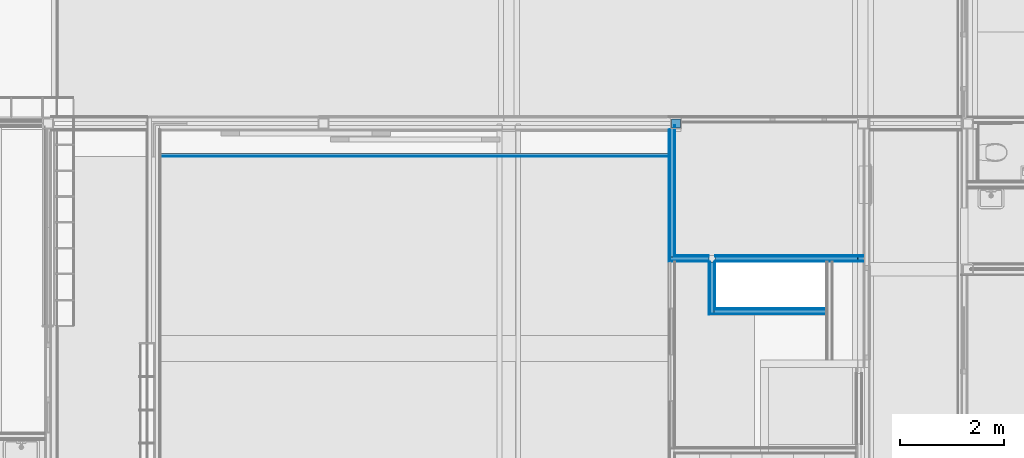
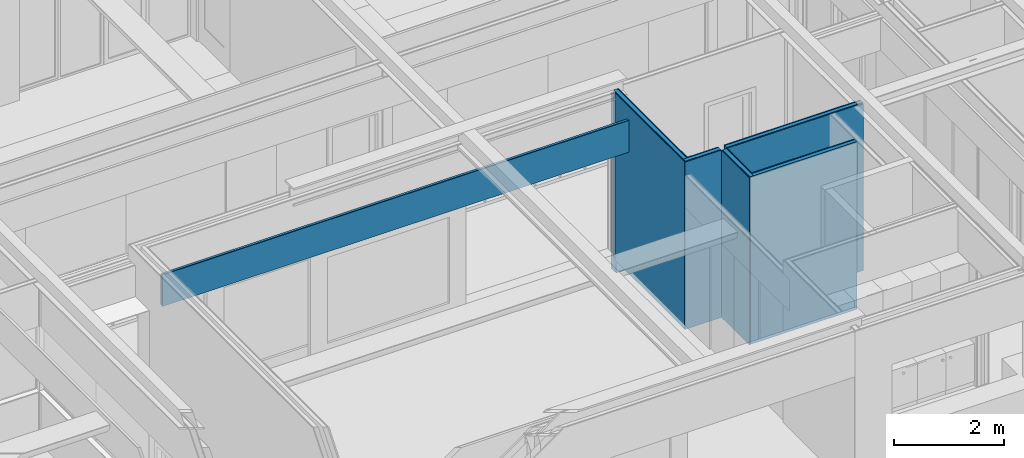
# One storey, part 87 of 165: 22 building element parts, 6 elements without a shape of their own.
"""IFC2X3 building model written with IfcOpenShell, lengths in millimetres."""

from ifc_helpers import new_model, entity, si_unit, converted_unit, derived_unit, money_unit, direction, frame, origin_with_axes, place, context, subcontext, project, spatial, faceted_brep, material, type_object, element, aggregate, save


model = new_model("IFC2X3")

# Units and contexts
model_context = context("Model", 3, precision=0.01, world=origin_with_axes(), true_north=direction((0.0, 1.0)))
body_context = subcontext(model_context, "Body", "Model", "MODEL_VIEW")
ifc_project = project(units=[si_unit("LENGTHUNIT", "METRE", prefix="MILLI"), si_unit("AREAUNIT", "SQUARE_METRE"), si_unit("VOLUMEUNIT", "CUBIC_METRE"), converted_unit("PLANEANGLEUNIT", "DEGREE", entity("IfcPlaneAngleMeasure", 0.0174532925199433), si_unit("PLANEANGLEUNIT", "RADIAN"), dimensions=[0, 0, 0, 0, 0, 0, 0]), money_unit("EUR"), converted_unit("TIMEUNIT", "Year", entity("IfcTimeMeasure", 31556926.0), si_unit("TIMEUNIT", "SECOND"), dimensions=[0, 0, 1, 0, 0, 0, 0]), si_unit("MASSUNIT", "GRAM", prefix="KILO"), si_unit("THERMODYNAMICTEMPERATUREUNIT", "DEGREE_CELSIUS"), si_unit("LUMINOUSINTENSITYUNIT", "LUMEN"), si_unit("ENERGYUNIT", "JOULE", prefix="MEGA"), derived_unit("THERMALCONDUCTANCEUNIT", [(si_unit("POWERUNIT", "WATT"), 1), (si_unit("LENGTHUNIT", "METRE"), -1), (si_unit("THERMODYNAMICTEMPERATUREUNIT", "KELVIN"), -1)]), derived_unit("SPECIFICHEATCAPACITYUNIT", [(si_unit("ENERGYUNIT", "JOULE"), 1), (si_unit("MASSUNIT", "GRAM", prefix="KILO"), -1), (si_unit("THERMODYNAMICTEMPERATUREUNIT", "KELVIN"), -1)]), derived_unit("MASSDENSITYUNIT", [(si_unit("MASSUNIT", "GRAM", prefix="KILO"), 1), (si_unit("VOLUMEUNIT", "CUBIC_METRE"), -1)])], contexts=[model_context])

# Site, building, storey
site_placement = place(None, origin_with_axes())
site = spatial("IfcSite", under=ifc_project, at=site_placement, Name="Site", CompositionType="ELEMENT")
building_placement = place(site_placement, origin_with_axes())
building = spatial("IfcBuilding", under=site, at=building_placement, Name="Naam gebouw", CompositionType="ELEMENT")
storey_placement = place(building_placement, origin_with_axes())
storey = spatial("IfcBuildingStorey", under=building, at=storey_placement, Name="Begane grond", CompositionType="ELEMENT", Elevation=0.0)

# Column, building element part
column_type = type_object("IfcColumnType", Name="200X200X10 200 x 200", PredefinedType="COLUMN")
column_placement = place(storey_placement, frame((20909.99793409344, 19449.99981118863, -425.0000000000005), z_axis=(0.0, 0.0, 1.0), x_axis=(1.0, 0.0, 0.0)))
column = element("IfcColumn", 1, at=column_placement, inside=storey, type_object=column_type, Name="28_Kolom-x", ObjectType="COLUMN")
ifc_material_1 = material(Name="Beton gewapend C")
building_element_part_1_placement = place(column_placement, origin_with_axes())
building_element_part_1 = element("IfcBuildingElementPart", 2, at=building_element_part_1_placement, material=ifc_material_1, Name="Beton gewapend C", context=body_context, shape_type="Brep", body=[
    faceted_brep([(-89.99999999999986, 89.99999999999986, 3889.999999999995), (89.99999999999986, 89.99999999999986, 3889.999999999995), (89.99999999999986, 89.99999999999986, 0.0), (-89.99999999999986, 89.99999999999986, 0.0), (89.99999999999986, -89.99999999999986, 3889.999999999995), (-89.99999999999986, -89.99999999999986, 3889.999999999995), (89.99999999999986, -89.99999999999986, 0.0), (-89.99999999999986, -89.99999999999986, 0.0)], [[[0, 1, 2, 3]], [[4, 1, 0, 5]], [[1, 4, 6, 2]], [[6, 7, 3, 2]], [[5, 0, 3, 7]], [[4, 5, 7, 6]]]),
])
aggregate(column, [building_element_part_1])

# Proxy, building element parts
building_element_proxy_type_1 = type_object("IfcBuildingElementProxyType", Name="22 Metal stud 125 gips 125", PredefinedType="NOTDEFINED")
proxy_1_placement = place(storey_placement, frame((21539.9990399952, 15774.99790795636, -100.0), z_axis=(0.0, 0.0, 1.0), x_axis=(1.512553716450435e-07, 0.9999999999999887, 0.0)))
proxy_1 = element("IfcBuildingElementProxy", 3, at=proxy_1_placement, inside=storey, type_object=building_element_proxy_type_1, Name="_Wand-x")
ifc_material_2 = material(Name="Gipsplaat")
building_element_part_2_placement = place(proxy_1_placement, origin_with_axes())
building_element_part_2 = element("IfcBuildingElementPart", 4, at=building_element_part_2_placement, material=ifc_material_2, Name="Gipsplaat", context=body_context, shape_type="Brep", body=[
    faceted_brep([(1015.128686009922, -12.49999999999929, 3700.0), (1015.128686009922, 0.0, 3700.0), (0.0, 0.0, 3700.0), (0.0, -12.49999999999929, 3700.0), (1015.128686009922, -12.49999999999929, 0.0), (1015.128686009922, 0.0, 0.0), (0.0, 0.0, 0.0), (0.0, -12.49999999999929, 0.0)], [[[0, 1, 2, 3]], [[0, 4, 5, 1]], [[1, 5, 6, 2]], [[3, 2, 6, 7]], [[4, 0, 3, 7]], [[5, 4, 7, 6]]]),
])
building_element_part_3_placement = place(proxy_1_placement, origin_with_axes())
building_element_part_3 = element("IfcBuildingElementPart", 5, at=building_element_part_3_placement, material=ifc_material_2, Name="Gipsplaat", context=body_context, shape_type="Brep", body=[
    faceted_brep([(1015.128686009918, -24.99999999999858, 3700.0), (1015.128686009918, -12.49999999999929, 3700.0), (12.49999999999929, -12.50000000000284, 3700.0), (12.49999999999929, -25.00000000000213, 3700.0), (1015.128686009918, -25.00000000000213, 0.0), (1015.128686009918, -12.49999999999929, 0.0), (12.49999999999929, -12.50000000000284, 0.0), (12.49999999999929, -25.00000000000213, 0.0)], [[[0, 1, 2, 3]], [[0, 4, 5, 1]], [[1, 5, 6, 2]], [[3, 2, 6, 7]], [[4, 0, 3, 7]], [[5, 4, 7, 6]]]),
])
ifc_material_3 = material(Name="ALG - LICHTE SCHEIDINGSWAND")
building_element_part_4_placement = place(proxy_1_placement, origin_with_axes())
building_element_part_4 = element("IfcBuildingElementPart", 6, at=building_element_part_4_placement, material=ifc_material_3, Name="ALG - LICHTE SCHEIDINGSWAND", context=body_context, shape_type="Brep", body=[
    faceted_brep([(1015.128686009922, -100.0000000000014, 3700.0), (1015.128686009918, -24.99999999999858, 3700.0), (25.00000000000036, -24.99999999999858, 3700.0), (24.99999999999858, -100.0000000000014, 3700.0), (1015.128686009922, -100.0000000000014, 0.0), (1015.128686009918, -25.00000000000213, 0.0), (25.00000000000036, -24.99999999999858, 0.0), (24.99999999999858, -100.0000000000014, 0.0)], [[[0, 1, 2, 3]], [[0, 4, 5, 1]], [[1, 5, 6, 2]], [[3, 2, 6, 7]], [[4, 0, 3, 7]], [[5, 4, 7, 6]]]),
])
building_element_part_5_placement = place(proxy_1_placement, origin_with_axes())
building_element_part_5 = element("IfcBuildingElementPart", 7, at=building_element_part_5_placement, material=ifc_material_2, Name="Gipsplaat", context=body_context, shape_type="Brep", body=[
    faceted_brep([(1015.128686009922, -112.5000000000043, 3700.0), (1015.128686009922, -100.0000000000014, 3700.0), (100.0000000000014, -100.0000000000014, 3700.0), (99.99999999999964, -112.5000000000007, 3700.0), (1015.128686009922, -112.5000000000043, 0.0), (1015.128686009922, -100.0000000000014, 0.0), (100.0000000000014, -100.0000000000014, 0.0), (99.99999999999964, -112.5000000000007, 0.0)], [[[0, 1, 2, 3]], [[0, 4, 5, 1]], [[1, 5, 6, 2]], [[3, 2, 6, 7]], [[4, 0, 3, 7]], [[5, 4, 7, 6]]]),
])
building_element_part_6_placement = place(proxy_1_placement, origin_with_axes())
building_element_part_6 = element("IfcBuildingElementPart", 8, at=building_element_part_6_placement, material=ifc_material_2, Name="Gipsplaat", context=body_context, shape_type="Brep", body=[
    faceted_brep([(1015.128686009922, -125.0000000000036, 3700.0), (1015.128686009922, -112.5000000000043, 3700.0), (112.4999999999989, -112.5000000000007, 3700.0), (112.5000000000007, -125.0000000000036, 3700.0), (1015.128686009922, -125.0000000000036, 0.0), (1015.128686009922, -112.5000000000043, 0.0), (112.4999999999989, -112.5000000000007, 0.0), (112.5000000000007, -125.0000000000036, 0.0)], [[[0, 1, 2, 3]], [[0, 4, 5, 1]], [[1, 5, 6, 2]], [[3, 2, 6, 7]], [[4, 0, 3, 7]], [[5, 4, 7, 6]]]),
])
aggregate(proxy_1, [building_element_part_2, building_element_part_3, building_element_part_4, building_element_part_5, building_element_part_6])

proxy_2_placement = place(storey_placement, frame((20774.99910155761, 16789.99778166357, -100.0), z_axis=(0.0, 0.0, 1.0), x_axis=(1.0, 0.0, 0.0)))
proxy_2 = element("IfcBuildingElementProxy", 9, at=proxy_2_placement, inside=storey, type_object=building_element_proxy_type_1, Name="_Wand-x")
building_element_part_7_placement = place(proxy_2_placement, origin_with_axes())
building_element_part_7 = element("IfcBuildingElementPart", 10, at=building_element_part_7_placement, material=ifc_material_2, Name="Gipsplaat", context=body_context, shape_type="Brep", body=[
    faceted_brep([(3524.999938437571, 125.0, 3695.000029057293), (3524.999938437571, 125.0, 3680.000029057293), (3734.999938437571, 125.0, 3680.000029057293), (3734.999938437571, 125.0, 0.0), (890.0001108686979, 125.0, 0.0), (890.0001108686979, 125.0, 3700.0), (3623.999938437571, 125.0, 3700.0), (3623.999938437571, 125.0, 3695.000029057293), (3524.999938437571, 112.5000000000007, 3695.000029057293), (3524.999938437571, 112.5000000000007, 3680.000029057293), (3734.999938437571, 112.5000000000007, 3680.000029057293), (3734.999938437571, 112.5000000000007, 0.0), (890.000108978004, 112.5000000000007, 0.0), (890.000108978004, 112.5000000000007, 3700.0), (3623.999938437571, 112.5000000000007, 3700.0), (3623.999938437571, 112.5000000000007, 3695.000029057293)], [[[0, 1, 2, 3, 4, 5, 6, 7]], [[1, 0, 8, 9]], [[10, 2, 1, 9]], [[2, 10, 11, 3]], [[12, 4, 3, 11]], [[13, 5, 4, 12]], [[14, 6, 5, 13]], [[7, 6, 14, 15]], [[0, 7, 15, 8]], [[15, 14, 13, 12, 11, 10, 9, 8]]]),
    faceted_brep([(3734.999938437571, 112.5000000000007, 3695.000029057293), (3734.999938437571, 125.0, 3695.000029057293), (3734.999938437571, 125.0, 3700.0), (3734.999938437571, 112.5000000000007, 3700.0), (3629.999938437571, 125.0, 3695.000029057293), (3629.999938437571, 112.5000000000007, 3695.000029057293), (3629.999938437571, 125.0, 3700.0), (3629.999938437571, 112.5000000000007, 3700.0)], [[[0, 1, 2, 3]], [[4, 1, 0, 5]], [[4, 6, 2, 1]], [[6, 7, 3, 2]], [[5, 0, 3, 7]], [[7, 6, 4, 5]]]),
    faceted_brep([(112.4999429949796, 125.0000000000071, 2700.0), (112.4999429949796, 125.0000000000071, 3400.0), (112.4999429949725, 125.0, 3700.0), (765.0001108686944, 125.0, 3700.0), (765.0001108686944, 125.0, 0.0), (112.499942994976, 125.0, 0.0), (112.4999429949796, 125.0000000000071, 100.0), (112.4999486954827, 112.5000000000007, 3400.0), (112.4999486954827, 112.5000000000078, 2700.0), (112.4999486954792, 112.4999999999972, 3700.0), (765.0001089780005, 112.5000000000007, 3700.0), (765.0001089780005, 112.5000000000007, 0.0), (112.4999486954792, 112.5000000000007, 0.0), (112.4999486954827, 112.4999999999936, 100.0)], [[[0, 1, 2, 3, 4, 5, 6]], [[7, 1, 0, 8]], [[1, 7, 9, 2]], [[2, 9, 10, 3]], [[4, 3, 10, 11]], [[12, 5, 4, 11]], [[13, 6, 5, 12]], [[8, 0, 6, 13]], [[7, 8, 13, 12, 11, 10, 9]]]),
])
building_element_part_8_placement = place(proxy_2_placement, origin_with_axes())
building_element_part_8 = element("IfcBuildingElementPart", 11, at=building_element_part_8_placement, material=ifc_material_2, Name="Gipsplaat", context=body_context, shape_type="Brep", body=[
    faceted_brep([(3524.999938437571, 24.99999999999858, 3695.000029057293), (3524.999938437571, 24.99999999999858, 3680.000029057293), (3734.999938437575, 25.00000000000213, 3680.000029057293), (3734.999938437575, 24.99999999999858, 0.0), (890.0000957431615, 24.99999999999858, 0.0), (890.0000957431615, 24.99999999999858, 3700.0), (3623.999938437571, 25.00000000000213, 3700.0), (3623.999938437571, 24.99999999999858, 3695.000029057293), (3524.999938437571, 12.49999999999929, 3695.000029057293), (3524.999938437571, 12.49999999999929, 3680.000029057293), (3734.999938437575, 12.49999999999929, 3680.000029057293), (3734.999938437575, 12.49999999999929, 0.0), (890.0000938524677, 12.49999999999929, 0.0), (890.0000938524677, 12.49999999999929, 3700.0), (3623.999938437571, 12.49999999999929, 3700.0), (3623.999938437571, 12.49999999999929, 3695.000029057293)], [[[0, 1, 2, 3, 4, 5, 6, 7]], [[1, 0, 8, 9]], [[10, 2, 1, 9]], [[2, 10, 11, 3]], [[12, 4, 3, 11]], [[13, 5, 4, 12]], [[14, 6, 5, 13]], [[7, 6, 14, 15]], [[0, 7, 15, 8]], [[15, 14, 13, 12, 11, 10, 9, 8]]]),
    faceted_brep([(3734.999938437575, 12.49999999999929, 3695.000029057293), (3734.999938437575, 25.00000000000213, 3695.000029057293), (3734.999938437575, 25.00000000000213, 3700.0), (3734.999938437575, 12.49999999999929, 3700.0), (3629.999938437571, 24.99999999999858, 3695.000029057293), (3629.999938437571, 12.49999999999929, 3695.000029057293), (3629.999938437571, 25.00000000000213, 3700.0), (3629.999938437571, 12.49999999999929, 3700.0)], [[[0, 1, 2, 3]], [[4, 1, 0, 5]], [[4, 6, 2, 1]], [[6, 7, 3, 2]], [[5, 0, 3, 7]], [[7, 6, 4, 5]]]),
    faceted_brep([(12.49998859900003, 25.00000000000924, 2700.0), (12.49998859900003, 25.00000000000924, 3400.0), (12.49998859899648, 24.99999999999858, 3700.0), (765.000095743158, 24.99999999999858, 3700.0), (765.000095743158, 24.99999999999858, 0.0), (12.49998859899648, 24.99999999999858, 0.0), (12.49998859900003, 25.00000000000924, 100.0), (12.49999429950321, 12.49999999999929, 3400.0), (12.49999429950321, 12.50000000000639, 2700.0), (12.49999429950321, 12.49999999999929, 3700.0), (765.0000938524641, 12.49999999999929, 3700.0), (765.0000938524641, 12.49999999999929, 0.0), (12.49999429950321, 12.49999999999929, 0.0), (12.49999429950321, 12.49999999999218, 100.0)], [[[0, 1, 2, 3, 4, 5, 6]], [[7, 1, 0, 8]], [[1, 7, 9, 2]], [[2, 9, 10, 3]], [[4, 3, 10, 11]], [[12, 5, 4, 11]], [[13, 6, 5, 12]], [[8, 0, 6, 13]], [[7, 8, 13, 12, 11, 10, 9]]]),
])
building_element_part_9_placement = place(proxy_2_placement, origin_with_axes())
building_element_part_9 = element("IfcBuildingElementPart", 12, at=building_element_part_9_placement, material=ifc_material_3, Name="ALG - LICHTE SCHEIDINGSWAND", context=body_context, shape_type="Brep", body=[
    faceted_brep([(3524.999938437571, 100.0000000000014, 3695.000029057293), (3524.999938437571, 100.0000000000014, 3680.000029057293), (3734.999938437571, 100.0000000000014, 3680.000029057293), (3734.999938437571, 100.0000000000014, 0.0), (890.0001070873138, 100.0000000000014, 0.0), (890.0001070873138, 100.0000000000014, 3700.0), (3623.999938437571, 100.0000000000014, 3700.0), (3623.999938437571, 100.0000000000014, 3695.000029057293), (3524.999938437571, 24.99999999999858, 3695.000029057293), (3524.999938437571, 24.99999999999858, 3680.000029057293), (3734.999938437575, 25.00000000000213, 3680.000029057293), (3734.999938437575, 24.99999999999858, 0.0), (890.0000957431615, 24.99999999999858, 0.0), (890.0000957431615, 24.99999999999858, 3700.0), (3623.999938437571, 25.00000000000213, 3700.0), (3623.999938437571, 24.99999999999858, 3695.000029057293)], [[[0, 1, 2, 3, 4, 5, 6, 7]], [[1, 0, 8, 9]], [[10, 2, 1, 9]], [[2, 10, 11, 3]], [[12, 4, 3, 11]], [[13, 5, 4, 12]], [[14, 6, 5, 13]], [[7, 6, 14, 15]], [[0, 7, 15, 8]], [[15, 14, 13, 12, 11, 10, 9, 8]]]),
    faceted_brep([(3734.999938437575, 25.00000000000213, 3695.000029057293), (3734.999938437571, 100.0000000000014, 3695.000029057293), (3734.999938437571, 100.0000000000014, 3700.0), (3734.999938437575, 25.00000000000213, 3700.0), (3629.999938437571, 100.0000000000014, 3695.000029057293), (3629.999938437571, 24.99999999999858, 3695.000029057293), (3629.999938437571, 100.0000000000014, 3700.0), (3629.999938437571, 25.00000000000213, 3700.0)], [[[0, 1, 2, 3]], [[4, 1, 0, 5]], [[4, 6, 2, 1]], [[6, 7, 3, 2]], [[5, 0, 3, 7]], [[7, 6, 4, 5]]]),
    faceted_brep([(24.99995439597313, 100.0000000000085, 2700.0), (24.99995439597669, 100.0000000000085, 3400.0), (24.99995439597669, 100.0000000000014, 3700.0), (765.0001070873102, 100.0000000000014, 3700.0), (765.0001070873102, 100.0000000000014, 0.0), (24.99995439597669, 100.0000000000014, 0.0), (24.99995439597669, 100.0000000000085, 100.0), (24.99998859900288, 25.00000000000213, 3400.0), (24.99998859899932, 25.00000000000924, 2700.0), (24.99998859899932, 24.99999999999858, 3700.0), (765.000095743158, 24.99999999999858, 3700.0), (765.000095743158, 24.99999999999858, 0.0), (24.99998859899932, 24.99999999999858, 0.0), (24.99998859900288, 24.99999999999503, 100.0)], [[[0, 1, 2, 3, 4, 5, 6]], [[7, 1, 0, 8]], [[1, 7, 9, 2]], [[2, 9, 10, 3]], [[4, 3, 10, 11]], [[12, 5, 4, 11]], [[13, 6, 5, 12]], [[8, 0, 6, 13]], [[7, 8, 13, 12, 11, 10, 9]]]),
])
building_element_part_10_placement = place(proxy_2_placement, origin_with_axes())
building_element_part_10 = element("IfcBuildingElementPart", 13, at=building_element_part_10_placement, material=ifc_material_2, Name="Gipsplaat", context=body_context, shape_type="Brep", body=[
    faceted_brep([(3524.999938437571, 12.49999999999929, 3695.000029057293), (3524.999938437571, 12.49999999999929, 3680.000029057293), (3734.999938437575, 12.49999999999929, 3680.000029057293), (3734.999938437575, 12.49999999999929, 0.0), (890.0000938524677, 12.49999999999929, 0.0), (890.0000938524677, 12.49999999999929, 3700.0), (3623.999938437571, 12.49999999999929, 3700.0), (3623.999938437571, 12.49999999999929, 3695.000029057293), (3524.999938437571, 0.0, 3695.000029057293), (3524.999938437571, 0.0, 3680.000029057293), (3734.999938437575, 0.0, 3680.000029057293), (3734.999938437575, 0.0, 0.0), (890.0000919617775, 0.0, 0.0), (890.0000919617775, 0.0, 3700.0), (3623.999938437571, 0.0, 3700.0), (3623.999938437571, 0.0, 3695.000029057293)], [[[0, 1, 2, 3, 4, 5, 6, 7]], [[1, 0, 8, 9]], [[10, 2, 1, 9]], [[2, 10, 11, 3]], [[12, 4, 3, 11]], [[13, 5, 4, 12]], [[14, 6, 5, 13]], [[7, 6, 14, 15]], [[0, 7, 15, 8]], [[15, 14, 13, 12, 11, 10, 9, 8]]]),
    faceted_brep([(3734.999938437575, 0.0, 3695.000029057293), (3734.999938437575, 12.49999999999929, 3695.000029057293), (3734.999938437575, 12.49999999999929, 3700.0), (3734.999938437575, 0.0, 3700.0), (3629.999938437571, 12.49999999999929, 3695.000029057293), (3629.999938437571, 0.0, 3695.000029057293), (3629.999938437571, 12.49999999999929, 3700.0), (3629.999938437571, 0.0, 3700.0)], [[[0, 1, 2, 3]], [[4, 1, 0, 5]], [[4, 6, 2, 1]], [[6, 7, 3, 2]], [[5, 0, 3, 7]], [[7, 6, 4, 5]]]),
    faceted_brep([(-2.060167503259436e-05, 12.49999999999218, 100.0), (-2.72026312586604e-06, 12.50000000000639, 2700.0), (-2.72026312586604e-06, 12.49999999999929, 3400.0), (-5.700499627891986e-06, 12.49999999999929, 3700.0), (765.0000938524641, 12.49999999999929, 3700.0), (765.0000938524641, 12.49999999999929, 0.0), (-5.700499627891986e-06, 12.49999999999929, 0.0), (-1.490117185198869e-05, 0.0, 100.0), (2.980240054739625e-06, 0.0, 2700.0), (2.980240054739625e-06, 0.0, 3400.0), (0.0, 0.0, 3700.0), (765.0000919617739, 0.0, 3700.0), (765.0000919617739, 0.0, 0.0), (0.0, 0.0, 0.0)], [[[0, 1, 2, 3, 4, 5, 6]], [[7, 8, 1, 0]], [[8, 9, 2, 1]], [[3, 2, 9, 10]], [[4, 3, 10, 11]], [[5, 4, 11, 12]], [[12, 13, 6, 5]], [[13, 7, 0, 6]], [[10, 9, 8, 7, 13, 12, 11]]]),
])
building_element_part_11_placement = place(proxy_2_placement, origin_with_axes())
building_element_part_11 = element("IfcBuildingElementPart", 14, at=building_element_part_11_placement, material=ifc_material_2, Name="Gipsplaat", context=body_context, shape_type="Brep", body=[
    faceted_brep([(3524.999938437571, 112.5000000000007, 3695.000029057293), (3524.999938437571, 112.5000000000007, 3680.000029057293), (3734.999938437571, 112.5000000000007, 3680.000029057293), (3734.999938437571, 112.5000000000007, 0.0), (890.000108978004, 112.5000000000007, 0.0), (890.000108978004, 112.5000000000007, 3700.0), (3623.999938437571, 112.5000000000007, 3700.0), (3623.999938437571, 112.5000000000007, 3695.000029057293), (3524.999938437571, 100.0000000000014, 3695.000029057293), (3524.999938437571, 100.0000000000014, 3680.000029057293), (3734.999938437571, 100.0000000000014, 3680.000029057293), (3734.999938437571, 100.0000000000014, 0.0), (890.0001070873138, 100.0000000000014, 0.0), (890.0001070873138, 100.0000000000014, 3700.0), (3623.999938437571, 100.0000000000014, 3700.0), (3623.999938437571, 100.0000000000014, 3695.000029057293)], [[[0, 1, 2, 3, 4, 5, 6, 7]], [[1, 0, 8, 9]], [[10, 2, 1, 9]], [[2, 10, 11, 3]], [[12, 4, 3, 11]], [[13, 5, 4, 12]], [[14, 6, 5, 13]], [[7, 6, 14, 15]], [[0, 7, 15, 8]], [[15, 14, 13, 12, 11, 10, 9, 8]]]),
    faceted_brep([(3734.999938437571, 100.0000000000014, 3695.000029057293), (3734.999938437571, 112.5000000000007, 3695.000029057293), (3734.999938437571, 112.5000000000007, 3700.0), (3734.999938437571, 100.0000000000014, 3700.0), (3629.999938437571, 112.5000000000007, 3695.000029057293), (3629.999938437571, 100.0000000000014, 3695.000029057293), (3629.999938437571, 112.5000000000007, 3700.0), (3629.999938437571, 100.0000000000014, 3700.0)], [[[0, 1, 2, 3]], [[4, 1, 0, 5]], [[4, 6, 2, 1]], [[6, 7, 3, 2]], [[5, 0, 3, 7]], [[7, 6, 4, 5]]]),
    faceted_brep([(99.9999486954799, 112.5000000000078, 2700.0), (99.9999486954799, 112.5000000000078, 3400.0), (99.99994869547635, 112.5000000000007, 3700.0), (765.0001089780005, 112.5000000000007, 3700.0), (765.0001089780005, 112.5000000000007, 0.0), (99.99994869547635, 112.5000000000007, 0.0), (99.9999486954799, 112.5000000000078, 100.0), (99.99995439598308, 100.0000000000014, 3400.0), (99.99995439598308, 100.0000000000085, 2700.0), (99.99995439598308, 100.0000000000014, 3700.0), (765.0001070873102, 100.0000000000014, 3700.0), (765.0001070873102, 100.0000000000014, 0.0), (99.99995439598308, 100.0000000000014, 0.0), (99.99995439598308, 99.99999999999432, 100.0)], [[[0, 1, 2, 3, 4, 5, 6]], [[7, 1, 0, 8]], [[1, 7, 9, 2]], [[2, 9, 10, 3]], [[4, 3, 10, 11]], [[12, 5, 4, 11]], [[13, 6, 5, 12]], [[8, 0, 6, 13]], [[7, 8, 13, 12, 11, 10, 9]]]),
])
aggregate(proxy_2, [building_element_part_7, building_element_part_8, building_element_part_9, building_element_part_10, building_element_part_11])

proxy_3_placement = place(storey_placement, frame((20774.99910155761, 16789.99778166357, -100.0), z_axis=(0.0, 0.0, 1.0), x_axis=(-4.560403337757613e-07, 0.9999999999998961, 0.0)))
proxy_3 = element("IfcBuildingElementProxy", 15, at=proxy_3_placement, inside=storey, type_object=building_element_proxy_type_1, Name="_Wand-x")
building_element_part_12_placement = place(proxy_3_placement, origin_with_axes())
building_element_part_12 = element("IfcBuildingElementPart", 16, at=building_element_part_12_placement, material=ifc_material_2, Name="Gipsplaat", context=body_context, shape_type="Brep", body=[
    faceted_brep([(2506.002023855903, -12.50000000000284, 3564.999999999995), (2506.002023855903, -12.50000000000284, 3604.999999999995), (2537.502605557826, -12.50000000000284, 3604.999999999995), (2537.502605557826, -12.50000000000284, 3700.0), (12.49999429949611, -12.50000000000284, 3700.0), (12.49999429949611, -12.50000000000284, 0.0), (2537.502605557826, -12.50000000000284, 0.0), (2537.502605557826, -12.50000000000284, 3564.999999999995), (2506.002029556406, -2.980236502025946e-06, 3564.999999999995), (2506.002029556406, -2.980236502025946e-06, 3604.999999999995), (2537.502611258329, 0.0, 3604.999999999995), (2537.502611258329, 0.0, 3700.0), (12.49999999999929, 0.0, 3700.0), (12.49999999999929, 0.0, 0.0), (2537.502611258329, 0.0, 0.0), (2537.502611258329, 0.0, 3564.999999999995)], [[[0, 1, 2, 3, 4, 5, 6, 7]], [[1, 0, 8, 9]], [[10, 2, 1, 9]], [[2, 10, 11, 3]], [[11, 12, 4, 3]], [[5, 4, 12, 13]], [[6, 5, 13, 14]], [[15, 7, 6, 14]], [[0, 7, 15, 8]], [[8, 15, 14, 13, 12, 11, 10, 9]]]),
])
building_element_part_13_placement = place(proxy_3_placement, origin_with_axes())
building_element_part_13 = element("IfcBuildingElementPart", 17, at=building_element_part_13_placement, material=ifc_material_2, Name="Gipsplaat", context=body_context, shape_type="Brep", body=[
    faceted_brep([(2506.0020181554, -24.99999999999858, 3564.999999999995), (2506.0020181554, -24.99999999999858, 3604.999999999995), (2550.002599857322, -25.00000000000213, 3604.999999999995), (2550.002599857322, -25.00000000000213, 3700.0), (24.99998859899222, -25.00000000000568, 3700.0), (24.99998859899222, -25.00000000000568, 0.0), (2550.002599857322, -25.00000000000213, 0.0), (2550.002599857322, -25.00000000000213, 3564.999999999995), (2506.002023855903, -12.50000000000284, 3564.999999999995), (2506.002023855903, -12.50000000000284, 3604.999999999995), (2550.002605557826, -12.50000000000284, 3604.999999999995), (2550.002605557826, -12.50000000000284, 3700.0), (24.99999429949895, -12.50000000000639, 3700.0), (24.99999429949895, -12.50000000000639, 0.0), (2550.002605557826, -12.50000000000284, 0.0), (2550.002605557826, -12.50000000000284, 3564.999999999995)], [[[0, 1, 2, 3, 4, 5, 6, 7]], [[1, 0, 8, 9]], [[10, 2, 1, 9]], [[2, 10, 11, 3]], [[11, 12, 4, 3]], [[5, 4, 12, 13]], [[6, 5, 13, 14]], [[15, 7, 6, 14]], [[0, 7, 15, 8]], [[8, 15, 14, 13, 12, 11, 10, 9]]]),
])
building_element_part_14_placement = place(proxy_3_placement, origin_with_axes())
building_element_part_14 = element("IfcBuildingElementPart", 18, at=building_element_part_14_placement, material=ifc_material_3, Name="ALG - LICHTE SCHEIDINGSWAND", context=body_context, shape_type="Brep", body=[
    faceted_brep([(2560.001983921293, -100.0000000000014, 0.0), (2560.001983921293, -100.0000000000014, 3564.999999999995), (2506.001983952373, -100.0000000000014, 3564.999999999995), (2506.001983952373, -100.0000000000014, 3604.999999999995), (2625.002565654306, -100.0000000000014, 3604.999999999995), (2625.002565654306, -100.0000000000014, 3700.0), (99.99995439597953, -100.0000000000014, 3700.0), (99.99995439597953, -100.0000000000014, 0.0), (2560.002013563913, -35.00000000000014, 3564.999999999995), (2560.002013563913, -35.00000000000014, 0.0), (2625.002595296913, -35.0000296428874, 3564.999999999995), (2625.002599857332, -25.00000000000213, 3564.999999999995), (2506.0020181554, -25.00000000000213, 3564.999999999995), (2506.0020181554, -25.00000000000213, 3604.999999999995), (2625.002599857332, -25.00000000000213, 3604.999999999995), (2625.002599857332, -25.00000000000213, 3700.0), (99.99998859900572, -25.00000000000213, 3700.0), (99.99998859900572, -25.00000000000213, 0.0), (2625.002599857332, -25.00000000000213, 0.0), (2625.002595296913, -35.0000296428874, 0.0)], [[[0, 1, 2, 3, 4, 5, 6, 7]], [[8, 1, 0, 9]], [[8, 10, 11, 12, 2, 1]], [[13, 3, 2, 12]], [[13, 14, 4, 3]], [[5, 4, 14, 15]], [[5, 15, 16, 6]], [[17, 7, 6, 16]], [[9, 0, 7, 17, 18, 19]], [[19, 10, 8, 9]], [[10, 19, 18, 11]], [[13, 12, 11, 18, 17, 16, 15, 14]]]),
])
building_element_part_15_placement = place(proxy_3_placement, origin_with_axes())
building_element_part_15 = element("IfcBuildingElementPart", 19, at=building_element_part_15_placement, material=ifc_material_2, Name="Gipsplaat", context=body_context, shape_type="Brep", body=[
    faceted_brep([(2560.001972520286, -125.0, 0.0), (2560.001972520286, -125.0, 3564.999999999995), (2506.001972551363, -125.0, 3564.999999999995), (2506.001972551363, -125.0, 3604.999999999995), (2625.002554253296, -125.0, 3604.999999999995), (2625.002554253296, -125.0, 3700.0), (124.9999429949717, -125.0, 3700.0), (124.9999429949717, -125.0, 0.0), (2560.00197822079, -112.5000000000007, 3564.999999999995), (2560.00197822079, -112.5000000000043, 0.0), (2506.00197825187, -112.5000000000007, 3564.999999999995), (2506.00197825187, -112.5000000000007, 3604.999999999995), (2625.002559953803, -112.5000000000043, 3604.999999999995), (2625.002559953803, -112.5000000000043, 3700.0), (124.9999486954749, -112.5000000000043, 3700.0), (124.9999486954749, -112.5000000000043, 0.0)], [[[0, 1, 2, 3, 4, 5, 6, 7]], [[8, 1, 0, 9]], [[1, 8, 10, 2]], [[11, 3, 2, 10]], [[11, 12, 4, 3]], [[5, 4, 12, 13]], [[5, 13, 14, 6]], [[15, 7, 6, 14]], [[9, 0, 7, 15]], [[8, 9, 15, 14, 13, 12, 11, 10]]]),
])
building_element_part_16_placement = place(proxy_3_placement, origin_with_axes())
building_element_part_16 = element("IfcBuildingElementPart", 20, at=building_element_part_16_placement, material=ifc_material_2, Name="Gipsplaat", context=body_context, shape_type="Brep", body=[
    faceted_brep([(2560.00197822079, -112.5000000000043, 0.0), (2560.00197822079, -112.5000000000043, 3564.999999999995), (2506.00197825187, -112.5000000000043, 3564.999999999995), (2506.00197825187, -112.5000000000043, 3604.999999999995), (2625.002559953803, -112.5000000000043, 3604.999999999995), (2625.002559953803, -112.5000000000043, 3700.0), (112.4999486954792, -112.5000000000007, 3700.0), (112.4999486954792, -112.5000000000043, 0.0), (2560.001983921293, -100.0000000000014, 3564.999999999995), (2560.001983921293, -100.0000000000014, 0.0), (2506.001983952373, -100.0000000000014, 3564.999999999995), (2506.001983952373, -100.0000000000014, 3604.999999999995), (2625.002565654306, -100.0000000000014, 3604.999999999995), (2625.002565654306, -100.0000000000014, 3700.0), (112.4999543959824, -100.0000000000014, 3700.0), (112.4999543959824, -100.0000000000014, 0.0)], [[[0, 1, 2, 3, 4, 5, 6, 7]], [[8, 1, 0, 9]], [[1, 8, 10, 2]], [[11, 3, 2, 10]], [[11, 12, 4, 3]], [[5, 4, 12, 13]], [[5, 13, 14, 6]], [[15, 7, 6, 14]], [[9, 0, 7, 15]], [[8, 9, 15, 14, 13, 12, 11, 10]]]),
])
aggregate(proxy_3, [building_element_part_12, building_element_part_13, building_element_part_14, building_element_part_15, building_element_part_16])

proxy_4_placement = place(storey_placement, frame((23924.99903999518, 15774.99754721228, -100.0), z_axis=(0.0, 0.0, 1.0), x_axis=(-0.9999999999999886, 1.512553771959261e-07, 0.0)))
proxy_4 = element("IfcBuildingElementProxy", 21, at=proxy_4_placement, inside=storey, type_object=building_element_proxy_type_1, Name="_Wand-x")
building_element_part_17_placement = place(proxy_4_placement, origin_with_axes())
building_element_part_17 = element("IfcBuildingElementPart", 22, at=building_element_part_17_placement, material=ifc_material_2, Name="Gipsplaat", context=body_context, shape_type="Brep", body=[
    faceted_brep([(2360.00000000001, -12.49999999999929, 3700.0), (125.0000018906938, -12.49999999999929, 3700.0), (125.0000037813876, -25.00000000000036, 3700.0), (2360.000000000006, -24.99999999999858, 3700.0), (2360.00000000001, -12.49999999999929, 0.0), (125.0000018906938, -12.49999999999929, 0.0), (125.0000037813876, -25.00000000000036, 0.0), (2360.000000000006, -24.99999999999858, 0.0)], [[[0, 1, 2, 3]], [[4, 5, 1, 0]], [[2, 1, 5, 6]], [[3, 2, 6, 7]], [[3, 7, 4, 0]], [[7, 6, 5, 4]]]),
])
building_element_part_18_placement = place(proxy_4_placement, origin_with_axes())
building_element_part_18 = element("IfcBuildingElementPart", 23, at=building_element_part_18_placement, material=ifc_material_3, Name="ALG - LICHTE SCHEIDINGSWAND", context=body_context, shape_type="Brep", body=[
    faceted_brep([(2285.000000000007, -24.99999999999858, 3700.0), (125.0000037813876, -25.00000000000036, 3700.0), (125.0000151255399, -99.99999999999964, 3700.0), (2285.000000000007, -99.99999999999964, 3700.0), (2285.000000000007, -24.99999999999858, 0.0), (125.0000037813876, -25.00000000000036, 0.0), (125.0000151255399, -100.0000000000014, 0.0), (2285.000000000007, -99.99999999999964, 0.0)], [[[0, 1, 2, 3]], [[4, 5, 1, 0]], [[2, 1, 5, 6]], [[3, 2, 6, 7]], [[3, 7, 4, 0]], [[7, 6, 5, 4]]]),
])
building_element_part_19_placement = place(proxy_4_placement, origin_with_axes())
building_element_part_19 = element("IfcBuildingElementPart", 24, at=building_element_part_19_placement, material=ifc_material_2, Name="Gipsplaat", context=body_context, shape_type="Brep", body=[
    faceted_brep([(2272.500000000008, -99.99999999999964, 3700.0), (125.0000151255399, -99.99999999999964, 3700.0), (125.0000170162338, -112.5000000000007, 3700.0), (2272.500000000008, -112.4999999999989, 3700.0), (2272.500000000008, -99.99999999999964, 0.0), (125.0000151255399, -100.0000000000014, 0.0), (125.0000170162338, -112.5000000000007, 0.0), (2272.500000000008, -112.4999999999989, 0.0)], [[[0, 1, 2, 3]], [[4, 5, 1, 0]], [[2, 1, 5, 6]], [[3, 2, 6, 7]], [[3, 7, 4, 0]], [[7, 6, 5, 4]]]),
])
building_element_part_20_placement = place(proxy_4_placement, origin_with_axes())
building_element_part_20 = element("IfcBuildingElementPart", 25, at=building_element_part_20_placement, material=ifc_material_2, Name="Gipsplaat", context=body_context, shape_type="Brep", body=[
    faceted_brep([(2260.000000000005, -112.4999999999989, 3700.0), (125.0000170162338, -112.5000000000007, 3700.0), (125.000018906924, -125.0, 3700.0), (2260.000000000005, -125.0, 3700.0), (2260.000000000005, -112.4999999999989, 0.0), (125.0000170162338, -112.5000000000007, 0.0), (125.000018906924, -125.0, 0.0), (2260.000000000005, -125.0, 0.0)], [[[0, 1, 2, 3]], [[4, 5, 1, 0]], [[2, 1, 5, 6]], [[3, 2, 6, 7]], [[3, 7, 4, 0]], [[7, 6, 5, 4]]]),
])
aggregate(proxy_4, [building_element_part_17, building_element_part_18, building_element_part_19, building_element_part_20])

building_element_proxy_type_2 = type_object("IfcBuildingElementProxyType", Name="22 Metal stud 62.5 plafond 63", PredefinedType="NOTDEFINED")
proxy_5_placement = place(storey_placement, frame((11010.00000000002, 18810.00039292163, 2600.0), z_axis=(0.0, 0.0, 1.0), x_axis=(1.0, 0.0, 0.0)))
proxy_5 = element("IfcBuildingElementProxy", 26, at=proxy_5_placement, inside=storey, type_object=building_element_proxy_type_2, Name="_Wand-x")
building_element_part_21_placement = place(proxy_5_placement, origin_with_axes())
building_element_part_21 = element("IfcBuildingElementPart", 27, at=building_element_part_21_placement, material=ifc_material_3, Name="ALG - LICHTE SCHEIDINGSWAND", context=body_context, shape_type="Brep", body=[
    faceted_brep([(9765.001674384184, 12.49999999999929, 12.00000000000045), (9765.001674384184, 62.5, 12.00000000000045), (9765.001674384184, 62.5, 700.0000000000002), (9765.001674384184, 12.49999999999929, 700.0000000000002), (0.0, 62.5, 12.00000000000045), (0.0, 12.49999999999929, 12.00000000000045), (0.0, 62.5, 700.0000000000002), (0.0, 12.49999999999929, 700.0000000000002)], [[[0, 1, 2, 3]], [[4, 1, 0, 5]], [[1, 4, 6, 2]], [[7, 3, 2, 6]], [[5, 0, 3, 7]], [[4, 5, 7, 6]]]),
])
building_element_part_22_placement = place(proxy_5_placement, origin_with_axes())
building_element_part_22 = element("IfcBuildingElementPart", 28, at=building_element_part_22_placement, material=ifc_material_2, Name="Gipsplaat", context=body_context, shape_type="Brep", body=[
    faceted_brep([(9765.001674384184, 5.000000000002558, 0.0), (9765.001674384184, 5.000000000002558, 12.00000000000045), (9765.001674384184, 12.49999999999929, 12.00000000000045), (9765.001674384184, 12.49999999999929, 700.0000000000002), (9765.001674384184, 0.0, 700.0000000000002), (9765.001674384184, 0.0, 0.0), (0.0, 5.000000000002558, 0.0), (0.0, 5.000000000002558, 12.00000000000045), (0.0, 12.49999999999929, 12.00000000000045), (0.0, 12.49999999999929, 700.0000000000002), (0.0, 0.0, 700.0000000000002), (0.0, 0.0, 0.0)], [[[0, 1, 2, 3, 4, 5]], [[1, 0, 6, 7]], [[8, 2, 1, 7]], [[2, 8, 9, 3]], [[10, 4, 3, 9]], [[11, 5, 4, 10]], [[6, 0, 5, 11]], [[7, 6, 11, 10, 9, 8]]]),
])
aggregate(proxy_5, [building_element_part_21, building_element_part_22])

save(model, "model.ifc")
